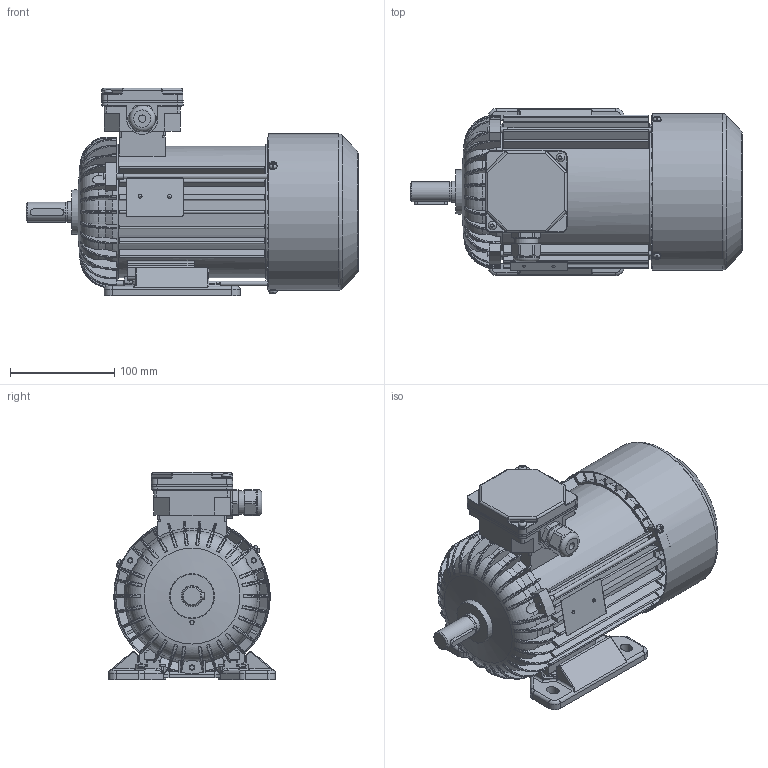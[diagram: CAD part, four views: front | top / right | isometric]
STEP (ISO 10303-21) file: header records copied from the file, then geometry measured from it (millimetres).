
FILE_DESCRIPTION(/* description */ ('Unknown'),/* implementation_level */ '2;1');
FILE_NAME(/* name */ '2SIE80-8B',/* time_stamp */ '2021-04-12T14:53:07+02:00',/* author */ ('Unknown'),/* organization */ ('Unknown'),/* preprocessor_version */ 'ST-DEVELOPER v16.7',/* originating_system */ 'Solid Edge',/* authorisation */ 'Unknown');
FILE_SCHEMA (('AUTOMOTIVE_DESIGN {1 0 10303 214 3 1 1}'));
Length unit declared in the file: millimetre
Products named in the file (1): 2SIE80-8B
Bounding box: 317.78 x 160 x 198.5 mm (x, y, z)
Volume: 1023625.3 mm3; surface area: 586725.5 mm2
Topology: 4 solids, 4 shells, 3092 faces, 8661 edges, 5600 vertices
Faces by surface type: plane 1474, cylinder 944, torus 276, cone 190, bspline 186, sphere 22
Full cylindrical faces by diameter (mm): 2 x2, 2.4 x2, 3.7 x8, 4 x5, 4.4 x3, 4.5 x1, 4.8 x2, 5 x8, 5.1 x3, 5.5 x3, 6.5 x4, 7 x1, 8 x6, 18.598 x1, 18.998 x1, 19.298 x1, 19.498 x1, 19.898 x1, 19.948 x1, 19.998 x2, 20.4 x2, 22.3 x1, 25 x1, 25.497 x1, 25.597 x1, 25.997 x4, 28.799 x4, 34 x2, 38.198 x4, 42 x3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
Entity records: 127884 total; most frequent: CARTESIAN_POINT 30981, ORIENTED_EDGE 16638, DIRECTION 15192, EDGE_CURVE 8319, AXIS2_PLACEMENT_3D 5567, VERTEX_POINT 5480, LINE 4058, VECTOR 4058
